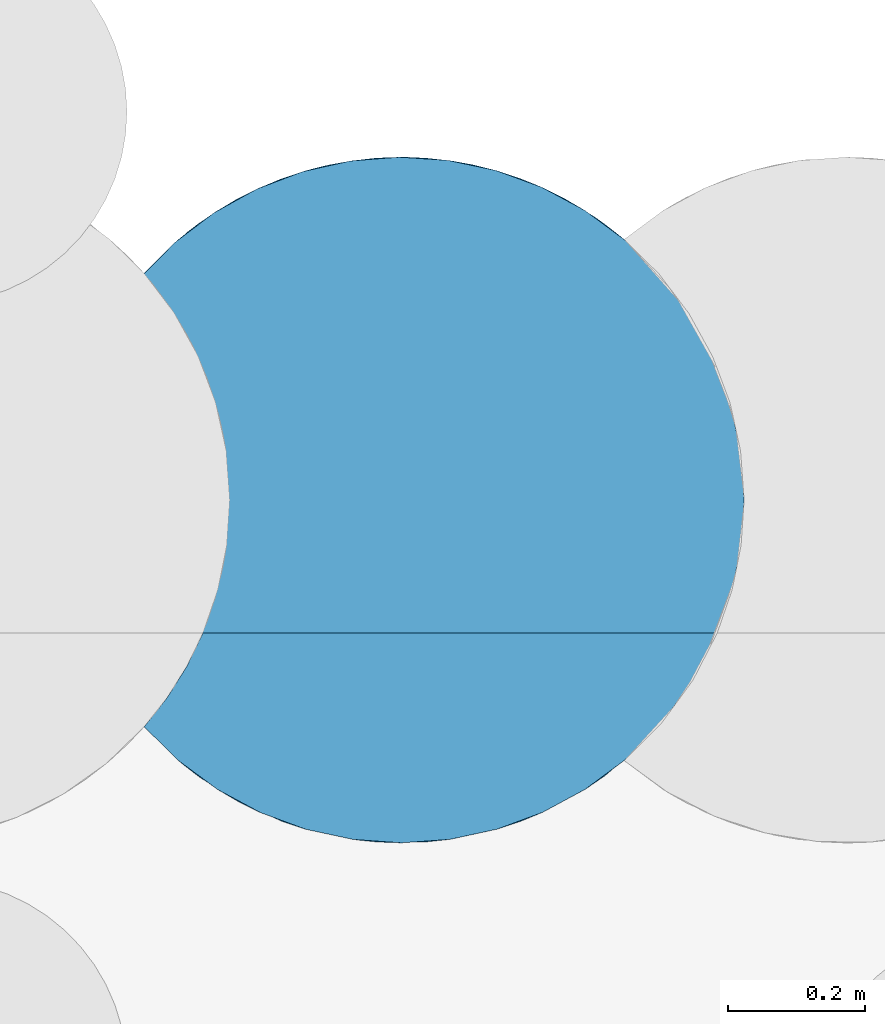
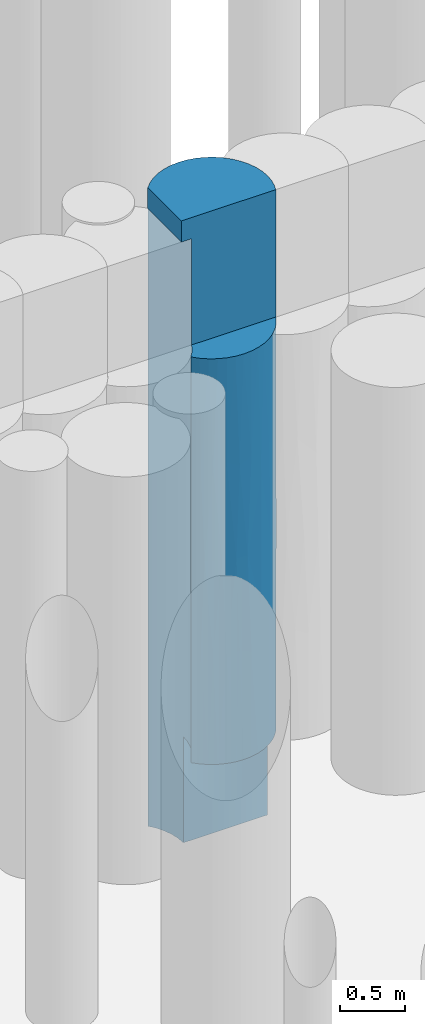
# One storey, part 95 of 104: 1 pile.
"""IFC2X3 building model written with IfcOpenShell, lengths in millimetres."""

import ifcopenshell
import ifcopenshell.guid

model = None  # the IFC model being written
_history = None  # IfcOwnerHistory: only IFC2X3 demands one
_inside = {}  # id of a spatial element -> (the spatial element, [elements in it])
_under = {}  # id of a project, library or spatial element -> (it, [spatial elements below it])
_declared = {}  # id of a project -> (the project, [libraries it declares])
_typed = {}  # id of a type object -> (the type object, [elements of that type])
_made_of = {}  # id of a material, layer set ... -> (it, [elements and type objects made of it])


def new_model(schema):
    """Start an empty IFC model of exactly this schema.

    Asked for "IFC4X3", IfcOpenShell would pick the latest addendum, in which some entities
    have other attributes; the version numbers below select the first issue.
    IFC2X3 requires an IfcOwnerHistory on every rooted entity: one is made here for all.
    """
    global model, _history
    if schema == "IFC4X3":
        model = ifcopenshell.file(schema_version=(4, 3, 0, 0))
    else:
        model = ifcopenshell.file(schema=schema)
    _inside.clear()
    _under.clear()
    _declared.clear()
    _typed.clear()
    _made_of.clear()
    _history = None
    if model.schema == "IFC2X3":
        org = make("IfcOrganization", Name="unknown")
        user = make(
            "IfcPersonAndOrganization",
            ThePerson=make("IfcPerson", FamilyName="unknown"),
            TheOrganization=org,
        )
        app = make(
            "IfcApplication",
            ApplicationDeveloper=org,
            Version="unknown",
            ApplicationFullName="unknown",
            ApplicationIdentifier="unknown",
        )
        _history = make(
            "IfcOwnerHistory",
            OwningUser=user,
            OwningApplication=app,
            ChangeAction="ADDED",
            CreationDate=0,
        )
    return model


def make(cls, **values):
    """One entity of the class cls with the attributes given. An attribute that is None is left unset."""
    return model.create_entity(
        cls, **{name: value for name, value in values.items() if value is not None}
    )


def entity(cls, *values):
    """Any entity or typed value of the class cls, its attributes in the order of the schema. None: left unset."""
    e = model.create_entity(cls)
    for i, value in enumerate(values):
        if value is not None:
            e[i] = value
    return e


def rooted(cls, **values):
    """An entity with a GlobalId (a new one), such as an element, a storey or a relation."""
    return make(cls, GlobalId=ifcopenshell.guid.new(), OwnerHistory=_history, **values)


def si_unit(unit_type, name, prefix=None):
    """IfcSIUnit, for example si_unit("LENGTHUNIT", "METRE", prefix="MILLI")."""
    return make("IfcSIUnit", UnitType=unit_type, Prefix=prefix, Name=name)


def converted_unit(unit_type, name, factor, base, dimensions=None, offset=None):
    """IfcConversionBasedUnit, such as the inch: factor (a typed value) times the base unit."""
    return make(
        "IfcConversionBasedUnit"
        if offset is None
        else "IfcConversionBasedUnitWithOffset",
        ConversionOffset=offset,
        Dimensions=None
        if dimensions is None
        else entity("IfcDimensionalExponents", *dimensions),
        UnitType=unit_type,
        Name=name,
        ConversionFactor=make(
            "IfcMeasureWithUnit", ValueComponent=factor, UnitComponent=base
        ),
    )


def derived_unit(unit_type, elements):
    """IfcDerivedUnit: a product of units, each with its exponent."""
    return make(
        "IfcDerivedUnit",
        Elements=[
            make("IfcDerivedUnitElement", Unit=unit, Exponent=power)
            for unit, power in elements
        ],
        UnitType=unit_type,
    )


def assignment(units):
    """IfcUnitAssignment: the units of a project."""
    return None if units is None else make("IfcUnitAssignment", Units=units)


def point(xyz):
    """IfcCartesianPoint."""
    return None if xyz is None else make("IfcCartesianPoint", Coordinates=xyz)


def direction(xyz):
    """IfcDirection."""
    return None if xyz is None else make("IfcDirection", DirectionRatios=xyz)


def frame(location, z_axis=None, x_axis=None):
    """IfcAxis2Placement3D, a coordinate frame: its origin and axes. An axis left out is left unset."""
    return make(
        "IfcAxis2Placement3D",
        Location=point(location),
        Axis=direction(z_axis),
        RefDirection=direction(x_axis),
    )


def origin():
    """The frame at (0, 0, 0) with its axes left unset."""
    return frame((0.0, 0.0, 0.0))


def place(relative_to, where):
    """IfcLocalPlacement: puts the frame where relative to a parent placement (None: the world)."""
    return make(
        "IfcLocalPlacement", PlacementRelTo=relative_to, RelativePlacement=where
    )


def context(
    kind, dimensions, precision=None, world=None, true_north=None, identifier=None
):
    """IfcGeometricRepresentationContext, for example the 3D "Model" context."""
    return make(
        "IfcGeometricRepresentationContext",
        ContextIdentifier=identifier,
        ContextType=kind,
        CoordinateSpaceDimension=dimensions,
        Precision=precision,
        WorldCoordinateSystem=world,
        TrueNorth=true_north,
    )


def subcontext(parent, identifier, kind, view, scale=None):
    """IfcGeometricRepresentationSubContext, for example "Body" below "Model"."""
    return make(
        "IfcGeometricRepresentationSubContext",
        ContextIdentifier=identifier,
        ContextType=kind,
        ParentContext=parent,
        TargetScale=scale,
        TargetView=view,
    )


def project(units=None, contexts=None):
    """IfcProject with its units and contexts."""
    return rooted(
        "IfcProject",
        Name="project",
        RepresentationContexts=contexts,
        UnitsInContext=assignment(units),
    )


def spatial(cls, under=None, at=None, **own):
    """A site, building, storey or space (cls), placed at a placement, below another one or the project."""
    s = rooted(cls, ObjectPlacement=at, **own)
    if under is not None:
        _under.setdefault(under.id(), (under, []))[1].append(s)
    return s


def faces_of(points, faces, orient=None, outer=None):
    """IfcFace entities. A face is a list of loops; a loop is a list of indices into points, from 0.

    orient and outer hold one flag for each loop. By default every Orientation is true, the
    first loop of a face is its IfcFaceOuterBound and the others are IfcFaceBound.
    """
    made = []
    for i, loops in enumerate(faces):
        bounds = []
        for j, loop in enumerate(loops):
            is_outer = j == 0 if outer is None else outer[i][j]
            bounds.append(
                make(
                    "IfcFaceOuterBound" if is_outer else "IfcFaceBound",
                    Bound=make("IfcPolyLoop", Polygon=[points[k] for k in loop]),
                    Orientation=True if orient is None else orient[i][j],
                )
            )
        made.append(make("IfcFace", Bounds=bounds))
    return made


def faceted_brep(points, faces, orient=None, outer=None, voids=None):
    """IfcFacetedBrep: a solid bounded by flat faces; with voids (closed shells), ...WithVoids."""
    shared = [point(p) for p in points]
    hull = make("IfcClosedShell", CfsFaces=faces_of(shared, faces, orient, outer))
    if voids is None:
        return make("IfcFacetedBrep", Outer=hull)
    return make(
        "IfcFacetedBrepWithVoids",
        Outer=hull,
        Voids=[
            make(cls, CfsFaces=faces_of(shared, fs, o, b)) for cls, fs, o, b in voids
        ],
    )


def shape(context_of_items, identifier, shape_type, items):
    """IfcShapeRepresentation: the items that make up one representation, for example the "Body"."""
    return make(
        "IfcShapeRepresentation",
        ContextOfItems=context_of_items,
        RepresentationIdentifier=identifier,
        RepresentationType=shape_type,
        Items=items,
    )


def source(mapping_origin, context_of_items, identifier, shape_type, items):
    """IfcRepresentationMap: a shape defined once, which mapped items show again and again."""
    return make(
        "IfcRepresentationMap",
        MappingOrigin=mapping_origin,
        MappedRepresentation=shape(context_of_items, identifier, shape_type, items),
    )


def transform(
    local_origin,
    x_axis=None,
    y_axis=None,
    z_axis=None,
    scale=None,
    scale2=None,
    scale3=None,
    uniform=True,
):
    """IfcCartesianTransformationOperator3D, or its non-uniform kind. x_axis, y_axis, z_axis: its Axis1, 2, 3."""
    if uniform:
        return make(
            "IfcCartesianTransformationOperator3D",
            Axis1=direction(x_axis),
            Axis2=direction(y_axis),
            LocalOrigin=point(local_origin),
            Scale=scale,
            Axis3=direction(z_axis),
        )
    return make(
        "IfcCartesianTransformationOperator3DnonUniform",
        Axis1=direction(x_axis),
        Axis2=direction(y_axis),
        LocalOrigin=point(local_origin),
        Scale=scale,
        Axis3=direction(z_axis),
        Scale2=scale2,
        Scale3=scale3,
    )


def mapped(mapping_source, mapping_target):
    """IfcMappedItem: shows the shape of a source again, moved by a transform."""
    return make(
        "IfcMappedItem", MappingSource=mapping_source, MappingTarget=mapping_target
    )


def material(Name=None, Category=None):
    """IfcMaterial."""
    return make("IfcMaterial", Name=Name, Category=Category)


def made_of(thing, what):
    """Note that an element or type object is made of a material, layer set ...; save() writes the relation."""
    if what is not None:
        _made_of.setdefault(what.id(), (what, []))[1].append(thing)
    return thing


def element(
    cls,
    number,
    at=None,
    inside=None,
    cuts=None,
    type_object=None,
    material=None,
    context=None,
    identifier="Body",
    shape_type=None,
    held_by="IfcProductDefinitionShape",
    body=None,
    shapes=None,
    **own,
):
    """One element of the class cls, such as IfcWall. Its Tag is "e" and its number.

    at: its placement. inside: the storey or other place that contains it. cuts: it is an
    opening in that element (IfcRelVoidsElement). A single representation is given by context,
    identifier, shape_type and body (its items); several are given by shapes. held_by: the class
    of the entity that holds the representations. save() writes the other relations.
    """
    e = rooted(cls, Tag="e%d" % number, ObjectPlacement=at, **own)
    if body is not None:
        shapes = [shape(context, identifier, shape_type, body)]
    if shapes is not None:
        e.Representation = make(held_by, Representations=shapes)
    if inside is not None:
        _inside.setdefault(inside.id(), (inside, []))[1].append(e)
    if cuts is not None:
        rooted(
            "IfcRelVoidsElement", RelatingBuildingElement=cuts, RelatedOpeningElement=e
        )
    if type_object is not None:
        _typed.setdefault(type_object.id(), (type_object, []))[1].append(e)
    return made_of(e, material)


def aggregate(whole, parts):
    """IfcRelAggregates: a whole, such as a stair, and the parts it consists of."""
    return rooted("IfcRelAggregates", RelatingObject=whole, RelatedObjects=parts)


def save(model, path):
    """Write the relations noted so far, then the file.

    IfcRelAggregates (storeys below a building ...), IfcRelContainedInSpatialStructure (elements
    in a storey), IfcRelDefinesByType, IfcRelAssociatesMaterial and IfcRelDeclares: one each for
    every whole, place, type object, material and project.
    """
    for whole, parts in _under.values():
        aggregate(whole, parts)
    for where, things in _inside.values():
        rooted(
            "IfcRelContainedInSpatialStructure",
            RelatedElements=things,
            RelatingStructure=where,
        )
    for kind, things in _typed.values():
        rooted("IfcRelDefinesByType", RelatedObjects=things, RelatingType=kind)
    for what, things in _made_of.values():
        rooted("IfcRelAssociatesMaterial", RelatedObjects=things, RelatingMaterial=what)
    for by, libraries in _declared.values():
        rooted("IfcRelDeclares", RelatingContext=by, RelatedDefinitions=libraries)
    model.write(path)


model = new_model("IFC2X3")

# Units and contexts
model_context = context("Model", 3, precision=0.01, world=origin(), true_north=direction((6.12303176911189e-17, 1.0)))
body_context = subcontext(model_context, "Body", "Model", "MODEL_VIEW")
ifc_project = project(units=[si_unit("LENGTHUNIT", "METRE", prefix="MILLI"), si_unit("AREAUNIT", "SQUARE_METRE", prefix="MILLI"), si_unit("VOLUMEUNIT", "CUBIC_METRE"), converted_unit("PLANEANGLEUNIT", "DEGREE", entity("IfcRatioMeasure", 0.0174532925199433), si_unit("PLANEANGLEUNIT", "RADIAN"), dimensions=[0, 0, 0, 0, 0, 0, 0]), si_unit("MASSUNIT", "GRAM", prefix="KILO"), derived_unit("MASSDENSITYUNIT", [(si_unit("MASSUNIT", "GRAM", prefix="KILO"), 1), (si_unit("LENGTHUNIT", "METRE"), -3)]), derived_unit("MOMENTOFINERTIAUNIT", [(si_unit("LENGTHUNIT", "METRE"), 4)]), si_unit("TIMEUNIT", "SECOND"), si_unit("FREQUENCYUNIT", "HERTZ"), si_unit("THERMODYNAMICTEMPERATUREUNIT", "DEGREE_CELSIUS"), derived_unit("THERMALTRANSMITTANCEUNIT", [(si_unit("MASSUNIT", "GRAM", prefix="KILO"), 1), (si_unit("THERMODYNAMICTEMPERATUREUNIT", "KELVIN"), -1), (si_unit("TIMEUNIT", "SECOND"), -3)]), derived_unit("VOLUMETRICFLOWRATEUNIT", [(si_unit("LENGTHUNIT", "METRE"), 3), (si_unit("TIMEUNIT", "SECOND"), -1)]), si_unit("ELECTRICCURRENTUNIT", "AMPERE"), si_unit("ELECTRICVOLTAGEUNIT", "VOLT"), si_unit("POWERUNIT", "WATT"), si_unit("FORCEUNIT", "NEWTON", prefix="KILO"), si_unit("ILLUMINANCEUNIT", "LUX"), si_unit("LUMINOUSFLUXUNIT", "LUMEN"), si_unit("LUMINOUSINTENSITYUNIT", "CANDELA"), derived_unit("USERDEFINED", [(si_unit("MASSUNIT", "GRAM", prefix="KILO"), -1), (si_unit("LENGTHUNIT", "METRE"), -2), (si_unit("TIMEUNIT", "SECOND"), 3), (si_unit("LUMINOUSFLUXUNIT", "LUMEN"), 1)]), derived_unit("LINEARVELOCITYUNIT", [(si_unit("LENGTHUNIT", "METRE"), 1), (si_unit("TIMEUNIT", "SECOND"), -1)]), si_unit("PRESSUREUNIT", "PASCAL"), derived_unit("USERDEFINED", [(si_unit("LENGTHUNIT", "METRE"), -2), (si_unit("MASSUNIT", "GRAM", prefix="KILO"), 1), (si_unit("TIMEUNIT", "SECOND"), -2)]), derived_unit("LINEARFORCEUNIT", [(si_unit("MASSUNIT", "GRAM", prefix="KILO"), 1), (si_unit("LENGTHUNIT", "METRE"), 1), (si_unit("TIMEUNIT", "SECOND"), -2), (si_unit("LENGTHUNIT", "METRE"), -1)]), derived_unit("PLANARFORCEUNIT", [(si_unit("MASSUNIT", "GRAM", prefix="KILO"), 1), (si_unit("LENGTHUNIT", "METRE"), 1), (si_unit("TIMEUNIT", "SECOND"), -2), (si_unit("LENGTHUNIT", "METRE"), -2)])], contexts=[model_context])

# Site, building, storey
site_placement = place(None, origin())
site = spatial("IfcSite", under=ifc_project, at=site_placement, Name="Theater aan de Parade", CompositionType="ELEMENT")
building_placement = place(site_placement, origin())
building = spatial("IfcBuilding", under=site, at=building_placement, Name="Theater aan de Parade", CompositionType="ELEMENT")
storey_placement = place(building_placement, frame((0.0, 0.0, -5520.0)))
storey = spatial("IfcBuildingStorey", under=building, at=storey_placement, Name="-2 kelder", CompositionType="ELEMENT", Elevation=-5520.0)

# Pile
ifc_material = material(Name="00_PBT_MAT_grout")
shared_shape = source(origin(), body_context, "Body", "Brep", [
    faceted_brep([(110.846592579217, 644.137045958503, 0.0), (85.3163177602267, 711.683804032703, 0.0), (50.322584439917, 774.848652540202, 0.0), (6.59527223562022, 832.314134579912, 0.0), (56.9652086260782, 881.878433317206, 0.0), (113.807907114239, 923.83913963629, 0.0), (175.99624385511, 957.368233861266, 0.0), (242.2875885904, 981.796604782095, 0.0), (311.35859898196, 996.637450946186, 0.0), (381.830728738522, 1001.59516525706, 0.0), (452.297612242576, 996.571158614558, 0.0), (521.353043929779, 981.665804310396, 0.0), (587.618952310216, 957.176435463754, 0.0), (649.772815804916, 923.591435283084, 0.0), (706.561807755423, 881.585486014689, 0.0), (757.695546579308, 831.062341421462, 0.0), (801.04712911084, 773.735147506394, 0.0), (835.732440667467, 710.78277350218, 0.0), (861.033997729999, 643.505433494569, 0.0), (876.427815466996, 573.294273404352, 0.0), (881.595272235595, 501.595220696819, 0.0), (131.595272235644, 501.595220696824, 0.0), (126.380912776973, 573.617230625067, 0.0), (849.155329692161, 678.760659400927, 2587.7702724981), (819.528491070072, 742.872024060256, 3619.01481187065), (868.855429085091, 613.744850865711, 3634.21574466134), (798.44005336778, 777.711914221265, 949.059864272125), (6.59527223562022, 832.314134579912, 5820.0), (1.59527223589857, 826.556756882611, 6020.0), (26.6577127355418, 851.947225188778, 6020.0), (51.7201532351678, 877.337693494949, 6020.0), (733.048074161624, 857.2367930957, 1015.72210533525), (849.593720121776, 677.599347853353, 1369.08966896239), (874.334551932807, 586.495175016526, 1537.7976285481), (881.595272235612, 501.595220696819, 1000.0), (248.634737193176, 983.592623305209, 2348.33299363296), (356.128185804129, 1000.94622701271, 2662.44365251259), (276.560648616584, 990.43847557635, 1331.55190331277), (649.201748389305, 923.953805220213, 6020.0), (699.462938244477, 887.548776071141, 5122.13452529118), (618.388989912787, 941.968625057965, 5045.32022199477), (757.705834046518, 831.050597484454, 6020.0), (780.411613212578, 803.166980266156, 4751.27044992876), (487.088906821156, 990.339625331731, 973.369925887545), (484.729189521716, 990.843005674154, 4457.5731352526), (583.55535105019, 958.992341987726, 4082.30575576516), (6.59527223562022, 832.314134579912, 4471.53629938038), (619.289798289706, 941.483061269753, 1557.26519440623), (780.402743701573, 803.178709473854, 1854.80218490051), (703.808136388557, 883.92867486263, 1982.17889012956), (6.59527223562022, 832.314134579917, 1561.5362993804), (84.6444719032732, 903.864063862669, 1036.20960127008), (849.597164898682, 677.590187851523, 4751.26841350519), (378.374386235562, 1001.58484648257, 6020.0), (449.563779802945, 996.953961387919, 6020.0), (342.712967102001, 1000.08109446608, 4722.24094537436), (706.5952722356, 881.562324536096, 6020.0), (272.164654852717, 989.473217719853, 3374.97256303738), (393.674268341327, 1001.44929725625, 3660.64098615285), (524.313525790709, 980.794031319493, 1925.11030608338), (389.931523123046, 1001.52572278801, 899.9946524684), (142.523858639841, 940.736267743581, 3195.4785303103), (71.449602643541, 893.780972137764, 2732.69099006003), (67.734522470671, 890.814220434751, 3701.59664231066), (861.036339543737, 643.497521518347, 6020.0), (876.428506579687, 573.28950351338, 6020.0), (874.350487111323, 586.402639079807, 4848.8467210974), (835.737178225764, 710.772488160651, 6020.0), (307.249692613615, 996.037062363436, 6020.0), (881.595272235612, 501.595220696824, 6020.0), (881.595272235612, 501.595220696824, 5239.2311362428), (801.054638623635, 773.72357267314, 6020.0), (586.36956982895, 957.739372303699, 6020.0), (754.291304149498, 834.908388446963, 3002.3139075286), (749.413645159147, 840.283343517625, 3932.01044551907), (874.541365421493, 585.286015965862, 2422.69338699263), (881.595272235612, 501.595220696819, 2896.92454496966), (881.595272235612, 501.595220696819, 2561.53770592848), (881.595272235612, 501.595220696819, 1948.46227248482), (68.4329960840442, 891.3764270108, 1854.27322784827), (417.153011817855, 1000.32926520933, 1767.65281876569), (176.564847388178, 957.624304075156, 981.823422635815), (678.655649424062, 903.783152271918, 4253.42081300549), (139.138154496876, 938.87607559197, 4484.27097833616), (108.557876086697, 920.463434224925, 6020.0), (240.786558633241, 981.358606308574, 4353.40764192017), (170.954168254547, 955.06002122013, 6020.0), (203.842781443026, 968.932413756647, 5180.4882803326), (4.08429643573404, 829.444977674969, 5820.0), (144.309116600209, 941.70348049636, 1906.33234219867), (881.595272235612, 501.595220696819, 4458.46227248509), (881.595272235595, 501.595220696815, 3510.0), (519.369050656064, 982.238941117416, 6020.0), (237.637295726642, 980.42306136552, 6020.0), (6.59527223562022, 832.314134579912, 3123.07259876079), (1.5952722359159, 826.556756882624, 5820.0), (806.623511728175, 764.940992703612, 2630.98559875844), (662.905707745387, 914.952740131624, 2996.85524214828), (455.699308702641, 996.073321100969, 2903.97486529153), (554.919058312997, 970.59294476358, 3009.33371298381), (881.595272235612, 501.595220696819, 1780.76885296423), (6.59527223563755, 832.314134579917, 2342.30444907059), (6.59527223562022, 832.314134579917, 2696.9246664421), (6.59527223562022, 832.314134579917, 4258.46233322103), (521.348443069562, 21.5232977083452, 4820.0), (452.290065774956, 6.61820490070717, 4820.0), (453.151755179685, 6.74204070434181, 3836.02552068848), (826.040877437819, 272.536049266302, 3890.07496172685), (806.980744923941, 238.826882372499, 4820.0), (761.335288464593, 176.329913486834, 4820.0), (64.1815991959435, 115.268208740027, 2064.33022786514), (113.807907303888, 79.3513016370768, 1000.0), (144.309117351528, 61.4869604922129, 2037.87688443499), (865.044480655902, 374.014411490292, 4040.05576976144), (318.298729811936, 5.61785456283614, 2909.97293706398), (242.285598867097, 21.3944138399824, 1989.91638385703), (346.506993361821, 2.82792757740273, 2037.86778956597), (819.522431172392, 260.307418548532, 2902.54137917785), (868.350162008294, 387.272531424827, 3035.76885280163), (381.830728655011, 1.59527613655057, 1000.0), (453.161185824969, 6.74340448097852, 1983.98388746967), (87.6459735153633, 97.1279046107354, 2910.0), (311.358599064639, 6.55299043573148, 1000.0), (6.59527223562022, 170.876306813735, 2561.536589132), (751.425122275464, 165.104682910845, 2904.40355997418), (735.024254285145, 147.917465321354, 3776.77403245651), (452.297611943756, 6.6192827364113, 1000.0), (113.800967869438, 79.3557027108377, 4820.0), (144.302407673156, 61.490578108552, 3782.09500266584), (175.989837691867, 45.8250974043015, 4820.0), (678.921343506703, 99.6036693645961, 2909.99201972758), (733.048074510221, 145.953648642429, 2038.84170717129), (208.709916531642, 32.4357022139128, 2909.99429010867), (554.919059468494, 32.5974970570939, 2369.34999033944), (521.353043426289, 21.5246369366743, 1000.0), (587.618951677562, 46.0140056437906, 1000.0), (849.593720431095, 325.591094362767, 2037.39391780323), (874.302791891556, 416.51114419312, 2171.15327928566), (877.192599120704, 435.388804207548, 6020.0), (873.084807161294, 409.736432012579, 4975.04775437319), (175.996244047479, 45.8222074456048, 1000.0), (64.1799137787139, 115.269593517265, 3755.61173905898), (6.59527223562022, 170.876306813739, 3258.4634108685), (652.529875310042, 81.3638072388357, 3842.47577197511), (242.277988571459, 21.3966217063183, 3830.09713857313), (346.498770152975, 2.82850614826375, 3782.10070661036), (417.153012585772, 2.8611762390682, 2909.99404428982), (861.033997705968, 359.685007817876, 1000.0), (876.427815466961, 429.896167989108, 1000.0), (381.82229445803, 1.5952722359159, 4820.0), (311.350626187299, 6.5541216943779, 4820.0), (864.062113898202, 370.348328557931, 6020.0), (842.435053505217, 307.619201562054, 4820.0), (554.917226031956, 32.5968194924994, 3616.20801881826), (706.583451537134, 121.618006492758, 1000.0), (649.686642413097, 79.5442554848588, 1982.79139119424), (649.772815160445, 79.5990057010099, 1000.0), (835.73244057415, 292.407667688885, 1000.0), (801.995819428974, 230.923131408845, 1977.18803085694), (801.047128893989, 229.455293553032, 1000.0), (757.695546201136, 172.12809954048, 1000.0), (56.9586186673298, 121.317633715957, 4820.0), (242.287588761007, 21.3938365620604, 1000.0), (587.619755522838, 46.0143691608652, 4820.0), (706.593299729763, 121.626429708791, 4820.0), (649.781434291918, 79.6044832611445, 4820.0), (6.59527223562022, 170.876306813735, 1000.0), (56.9652088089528, 121.312007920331, 1000.0), (6.59527223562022, 170.876306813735, 4820.0), (842.435053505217, 307.619201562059, 6020.0), (242.280570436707, 21.3958726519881, 4820.0), (1.59527223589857, 307.619201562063, 6020.0), (1.59527223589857, 307.619201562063, 5820.0), (50.322584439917, 228.341788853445, 1000.0), (85.3163177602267, 291.50663736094, 1000.0), (110.846592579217, 359.053395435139, 1000.0), (126.380912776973, 429.573210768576, 1000.0), (131.595272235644, 501.595220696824, 1000.0), (92.4350535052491, 307.619201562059, 4820.0), (68.8150080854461, 259.027905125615, 4820.0), (40.0899489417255, 213.268844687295, 4820.0), (92.4350535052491, 307.619201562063, 5820.0), (121.898279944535, 599.589917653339, 4345.05546964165), (99.2971227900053, 678.38599813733, 4855.21777069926), (99.2971222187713, 678.385999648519, 3834.89315626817), (99.970650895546, 676.593805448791, 2828.98219473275), (124.449513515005, 585.825244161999, 3342.53894904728), (123.200216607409, 592.834349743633, 1385.37374910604), (131.595272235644, 501.595220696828, 4258.46227107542), (126.379070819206, 573.629883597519, 5820.0), (68.9612326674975, 743.898783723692, 1002.25156599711), (62.2634040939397, 755.612858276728, 2339.85143515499), (99.302444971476, 678.371917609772, 1823.06883603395), (57.9521888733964, 762.784385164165, 3316.65867621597), (131.595272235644, 501.595220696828, 5820.0), (50.3156339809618, 774.85930296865, 5820.0), (64.1330667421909, 752.415986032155, 4345.05546605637), (110.842385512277, 644.15119011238, 5820.0), (85.3098682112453, 711.697732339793, 5820.0), (122.909122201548, 594.389082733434, 2312.25036919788), (131.595272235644, 501.595220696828, 2696.92454215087), (131.595272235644, 501.595220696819, 3410.0), (131.595272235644, 501.595220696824, 1848.46227107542), (131.595272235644, 501.595220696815, 2561.53770595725), (68.9612331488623, 259.291658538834, 1953.95952441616), (119.888484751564, 394.032501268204, 1953.95952434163), (99.3024456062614, 324.818525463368, 2715.05844097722), (58.5045692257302, 241.309892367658, 2910.0), (123.711102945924, 413.153097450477, 2780.58047950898), (81.2818326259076, 283.004284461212, 3740.57177268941), (123.485844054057, 411.908737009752, 4821.60576812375), (119.840217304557, 393.813619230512, 3834.23114692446), (114.059163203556, 370.337482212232, 5820.0), (127.189506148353, 435.365655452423, 5820.0)], [[[0, 1, 2, 3, 4, 5, 6, 7, 8, 9, 10, 11, 12, 13, 14, 15, 16, 17, 18, 19, 20, 21, 22]], [[23, 24, 25]], [[15, 26, 16]], [[27, 28, 29, 30]], [[15, 31, 26]], [[32, 33, 18]], [[20, 19, 34]], [[26, 17, 16]], [[35, 36, 37]], [[38, 39, 40]], [[39, 41, 42]], [[12, 11, 43]], [[44, 40, 45]], [[30, 46, 27]], [[12, 47, 13]], [[48, 31, 49]], [[50, 51, 3]], [[49, 31, 47]], [[11, 10, 43]], [[24, 52, 25]], [[17, 32, 18]], [[53, 54, 55]], [[56, 39, 38]], [[57, 55, 58]], [[43, 59, 47]], [[60, 10, 9]], [[61, 62, 63]], [[14, 31, 15]], [[64, 65, 66]], [[64, 52, 67]], [[67, 52, 42]], [[55, 68, 53]], [[65, 69, 70]], [[71, 67, 42]], [[60, 8, 37]], [[71, 42, 41]], [[52, 24, 42]], [[40, 72, 38]], [[73, 48, 49]], [[7, 37, 8]], [[74, 24, 73]], [[75, 76, 77, 78]], [[51, 50, 79]], [[3, 51, 4]], [[80, 43, 60]], [[51, 81, 5]], [[39, 82, 40]], [[83, 30, 84]], [[85, 55, 57]], [[86, 87, 84]], [[13, 47, 31]], [[27, 88, 28]], [[81, 51, 89]], [[58, 36, 57]], [[66, 65, 70]], [[25, 90, 91, 76]], [[63, 83, 61]], [[26, 31, 48]], [[54, 92, 44]], [[4, 51, 5]], [[54, 44, 55]], [[85, 61, 83]], [[68, 87, 93]], [[92, 72, 40]], [[83, 46, 30]], [[87, 55, 85]], [[5, 81, 6]], [[87, 68, 55]], [[63, 62, 94]], [[81, 7, 6]], [[36, 35, 57]], [[33, 19, 18]], [[95, 28, 88]], [[73, 96, 48]], [[58, 55, 44]], [[10, 60, 43]], [[13, 31, 14]], [[74, 97, 82]], [[59, 43, 80]], [[12, 43, 47]], [[45, 40, 82]], [[92, 40, 44]], [[98, 80, 36]], [[99, 47, 59]], [[97, 45, 82]], [[99, 44, 45]], [[52, 66, 25]], [[25, 76, 75]], [[97, 47, 99]], [[24, 23, 96]], [[97, 73, 49]], [[74, 82, 39]], [[33, 23, 75]], [[96, 32, 48]], [[75, 78, 33]], [[23, 33, 32]], [[25, 75, 23]], [[33, 78, 100, 34]], [[19, 33, 34]], [[47, 97, 49]], [[97, 99, 45]], [[89, 37, 81]], [[7, 81, 37]], [[48, 32, 26]], [[17, 26, 32]], [[8, 60, 9]], [[37, 80, 60]], [[41, 39, 56]], [[74, 39, 42]], [[99, 98, 44]], [[80, 98, 59]], [[98, 36, 58]], [[37, 36, 80]], [[37, 89, 35]], [[61, 35, 89]], [[44, 98, 58]], [[59, 98, 99]], [[35, 61, 57]], [[101, 62, 79]], [[62, 101, 102, 94]], [[61, 89, 62]], [[79, 89, 51]], [[63, 94, 103, 46]], [[83, 63, 46]], [[61, 85, 57]], [[87, 86, 93]], [[85, 83, 87]], [[84, 87, 83]], [[66, 70, 90]], [[25, 66, 90]], [[66, 52, 64]], [[24, 74, 42]], [[97, 74, 73]], [[24, 96, 73]], [[32, 96, 23]], [[101, 79, 50]], [[62, 89, 79]], [[104, 105, 106]], [[107, 108, 109]], [[110, 111, 112]], [[91, 90, 113]], [[114, 115, 116]], [[107, 117, 118]], [[116, 119, 120]], [[112, 121, 110]], [[119, 116, 122]], [[110, 121, 123]], [[124, 107, 125]], [[120, 119, 126]], [[127, 128, 129]], [[124, 130, 131]], [[132, 121, 112]], [[133, 134, 135]], [[136, 137, 118]], [[134, 133, 120]], [[69, 138, 139]], [[140, 112, 111]], [[121, 141, 142]], [[125, 143, 130]], [[144, 129, 128]], [[132, 114, 144]], [[106, 145, 146]], [[132, 144, 128]], [[147, 148, 137]], [[109, 125, 107]], [[149, 150, 145]], [[122, 116, 115]], [[106, 105, 149]], [[151, 152, 139]], [[146, 133, 153]], [[117, 136, 118]], [[154, 131, 155]], [[121, 142, 123]], [[155, 156, 154]], [[118, 77, 76, 91]], [[157, 158, 159]], [[137, 148, 100]], [[136, 157, 147]], [[114, 146, 145]], [[157, 136, 158]], [[130, 124, 125]], [[158, 160, 159]], [[148, 34, 100]], [[155, 131, 130]], [[132, 112, 115]], [[141, 127, 161]], [[162, 115, 140]], [[154, 160, 131]], [[153, 163, 104]], [[164, 143, 125]], [[143, 164, 165]], [[166, 167, 110]], [[168, 142, 141]], [[125, 109, 164]], [[106, 149, 145]], [[113, 152, 107]], [[169, 152, 151]], [[107, 118, 113]], [[155, 135, 156]], [[144, 150, 170]], [[130, 153, 133]], [[113, 139, 152]], [[141, 121, 128]], [[152, 108, 107]], [[143, 163, 153]], [[146, 114, 116]], [[146, 116, 120]], [[121, 132, 128]], [[158, 136, 117]], [[91, 113, 118]], [[139, 113, 90]], [[139, 90, 70, 69]], [[151, 139, 138]], [[146, 153, 106]], [[104, 106, 153]], [[134, 120, 126]], [[133, 146, 120]], [[130, 133, 155]], [[135, 155, 133]], [[150, 144, 145]], [[129, 144, 170]], [[124, 158, 117]], [[160, 158, 131]], [[140, 115, 112]], [[122, 115, 162]], [[163, 143, 165]], [[153, 130, 143]], [[144, 114, 145]], [[115, 114, 132]], [[127, 141, 128]], [[168, 141, 161]], [[166, 110, 123]], [[111, 110, 167]], [[158, 124, 131]], [[107, 124, 117]], [[137, 100, 78, 77]], [[118, 137, 77]], [[137, 136, 147]], [[92, 54, 53, 68, 93, 86, 84, 30, 29, 28, 171, 169, 151, 138, 69, 65, 64, 67, 71, 41, 56, 38, 72]], [[28, 95, 172, 171]], [[157, 159, 160, 154, 156, 135, 134, 126, 119, 122, 162, 140, 111, 167, 166, 173, 174, 175, 176, 177, 34, 148, 147]], [[34, 177, 21, 20]], [[161, 127, 129, 170, 150, 149, 105, 104, 163, 165, 164, 109, 108, 152, 178, 179, 180, 168]], [[181, 178, 152, 169, 171, 172]], [[182, 183, 184]], [[185, 186, 184]], [[22, 187, 0]], [[177, 22, 21]], [[188, 189, 182]], [[190, 1, 0]], [[191, 102, 101, 50]], [[192, 190, 187]], [[2, 190, 3]], [[190, 50, 3]], [[193, 191, 185]], [[186, 182, 184]], [[184, 193, 185]], [[189, 188, 194]], [[183, 195, 196]], [[183, 197, 198]], [[195, 27, 46, 103]], [[184, 196, 193]], [[195, 183, 198]], [[190, 2, 1]], [[189, 197, 183]], [[192, 187, 199]], [[184, 183, 196]], [[50, 190, 191]], [[183, 182, 189]], [[186, 200, 201, 188]], [[182, 186, 188]], [[192, 199, 185]], [[200, 186, 199]], [[192, 185, 191]], [[193, 103, 94, 102]], [[103, 193, 196]], [[185, 199, 186]], [[187, 202, 199]], [[177, 187, 22]], [[0, 187, 190]], [[190, 192, 191]], [[102, 191, 193]], [[199, 202, 203, 200]], [[187, 177, 202]], [[103, 196, 195]], [[175, 174, 204, 205]], [[123, 204, 166]], [[206, 204, 207]], [[173, 166, 204]], [[142, 168, 180]], [[174, 173, 204]], [[206, 208, 205]], [[209, 142, 180]], [[205, 176, 175]], [[176, 205, 177]], [[179, 178, 209]], [[210, 188, 211]], [[201, 208, 211]], [[207, 123, 142]], [[205, 203, 202, 177]], [[178, 210, 211]], [[179, 209, 180]], [[181, 212, 178]], [[210, 178, 212]], [[211, 209, 178]], [[201, 211, 188]], [[142, 209, 207]], [[210, 213, 194]], [[203, 205, 208]], [[206, 205, 204]], [[209, 211, 206]], [[123, 207, 204]], [[206, 207, 209]], [[188, 210, 194]], [[213, 210, 212]], [[208, 201, 200, 203]], [[208, 206, 211]], [[95, 195, 198, 197, 189, 194, 213, 212, 181, 172]], [[195, 88, 27]], [[88, 195, 95]]]),
])
pile_placement = place(storey_placement, frame((83868.4047277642, 20202.3807984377, -3840.0)))
element("IfcPile", 1, at=pile_placement, inside=storey, material=ifc_material, Name="17_PBT_SFO_grondkering_rond:Ø1000 (grondkering)", ObjectType="17_PBT_SFO_grondkering_rond:Ø1000 (grondkering)", PredefinedType="NOTDEFINED", context=body_context, shape_type="MappedRepresentation", body=[
    mapped(shared_shape, transform((0.0, 0.0, 0.0), scale=1.0)),
])

save(model, "model.ifc")
